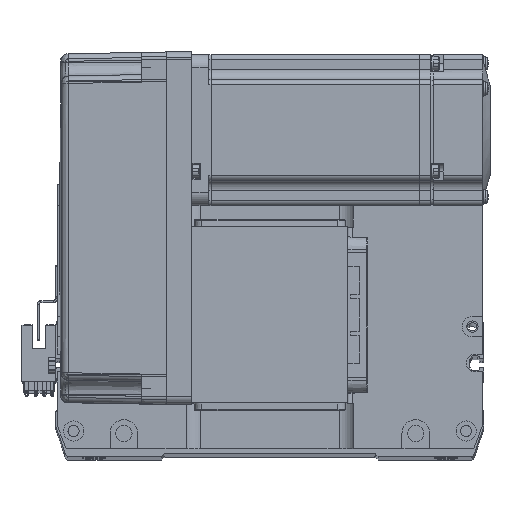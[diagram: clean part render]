
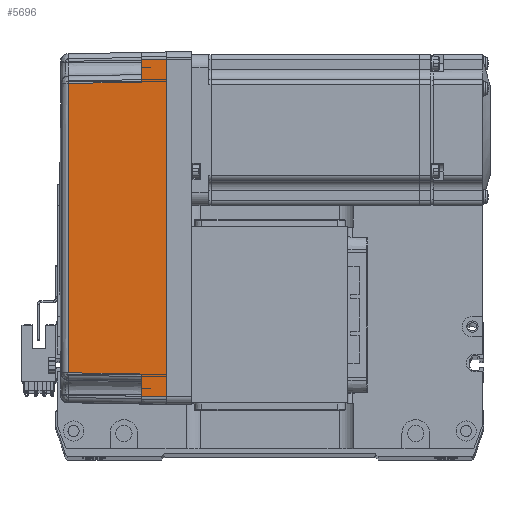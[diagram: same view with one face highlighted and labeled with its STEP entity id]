
A CAD part, top view. The second image highlights one B-rep face of the part: STEP entity #5696.
In plain terms, the highlighted planar face has unit normal (-0.018, 0, 1) as drawn and (0, 1, 0.017) by its records, which use the part's own axes.
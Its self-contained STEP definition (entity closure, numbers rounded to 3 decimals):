
#541 = CARTESIAN_POINT ( 'NONE',  ( 0., 36., 0. ) ) ;
#4303 = FACE_OUTER_BOUND ( 'NONE', #29528, .T. ) ;
#4507 = LINE ( 'NONE', #43528, #9754 ) ;
#4822 = ORIENTED_EDGE ( 'NONE', *, *, #26625, .T. ) ;
#5563 = DIRECTION ( 'NONE',  ( 1., 0., 0. ) ) ;
#5696 = ADVANCED_FACE ( 'NONE', ( #4303 ), #8889, .T. ) ;
#6375 = VERTEX_POINT ( 'NONE', #43643 ) ;
#8135 = ORIENTED_EDGE ( 'NONE', *, *, #50624, .T. ) ;
#8437 = ORIENTED_EDGE ( 'NONE', *, *, #33438, .T. ) ;
#8889 = PLANE ( 'NONE',  #20826 ) ;
#9283 = LINE ( 'NONE', #43284, #46164 ) ;
#9754 = VECTOR ( 'NONE', #12332, 1000. ) ;
#11929 = ORIENTED_EDGE ( 'NONE', *, *, #52547, .T. ) ;
#12332 = DIRECTION ( 'NONE',  ( 0.017, 0.017, -1. ) ) ;
#13146 = CARTESIAN_POINT ( 'NONE',  ( 70., 36., 0. ) ) ;
#13754 = VERTEX_POINT ( 'NONE', #28854 ) ;
#13771 = DIRECTION ( 'NONE',  ( 0., -0.017, 1. ) ) ;
#13995 = VECTOR ( 'NONE', #43821, 1000. ) ;
#14355 = ORIENTED_EDGE ( 'NONE', *, *, #46519, .F. ) ;
#15229 = VERTEX_POINT ( 'NONE', #35168 ) ;
#16623 = CARTESIAN_POINT ( 'NONE',  ( 70., 35.825, 10. ) ) ;
#17064 = DIRECTION ( 'NONE',  ( 1., 0., 0. ) ) ;
#18343 = ORIENTED_EDGE ( 'NONE', *, *, #31940, .F. ) ;
#18464 = VERTEX_POINT ( 'NONE', #35305 ) ;
#19471 = CARTESIAN_POINT ( 'NONE',  ( -67., 36., 0. ) ) ;
#20826 = AXIS2_PLACEMENT_3D ( 'NONE', #13146, #42579, #13771 ) ;
#21306 = VERTEX_POINT ( 'NONE', #56798 ) ;
#23693 = EDGE_CURVE ( 'NONE', #25841, #6375, #60445, .T. ) ;
#24441 = CARTESIAN_POINT ( 'NONE',  ( -57.495, 35.32, 38.985 ) ) ;
#25388 = VERTEX_POINT ( 'NONE', #44700 ) ;
#25841 = VERTEX_POINT ( 'NONE', #24441 ) ;
#26625 = EDGE_CURVE ( 'NONE', #21306, #13754, #61433, .T. ) ;
#27559 = EDGE_CURVE ( 'NONE', #15229, #25841, #9283, .T. ) ;
#28854 = CARTESIAN_POINT ( 'NONE',  ( 66.826, 35.825, 10. ) ) ;
#29008 = CARTESIAN_POINT ( 'NONE',  ( -57.495, 35.32, 38.985 ) ) ;
#29528 = EDGE_LOOP ( 'NONE', ( #11929, #8135, #33251, #45223, #8437, #4822, #18343, #14355 ) ) ;
#30160 = VERTEX_POINT ( 'NONE', #61326 ) ;
#31940 = EDGE_CURVE ( 'NONE', #25388, #13754, #36495, .T. ) ;
#33053 = CARTESIAN_POINT ( 'NONE',  ( 70., 35.825, 10. ) ) ;
#33145 = DIRECTION ( 'NONE',  ( 0.017, -0.017, 1. ) ) ;
#33251 = ORIENTED_EDGE ( 'NONE', *, *, #27559, .T. ) ;
#33438 = EDGE_CURVE ( 'NONE', #6375, #21306, #4507, .T. ) ;
#33501 = LINE ( 'NONE', #16623, #38823 ) ;
#35168 = CARTESIAN_POINT ( 'NONE',  ( -58., 35.825, 10. ) ) ;
#35305 = CARTESIAN_POINT ( 'NONE',  ( -67., 36., 0. ) ) ;
#36065 = LINE ( 'NONE', #541, #37597 ) ;
#36495 = LINE ( 'NONE', #53098, #13995 ) ;
#37597 = VECTOR ( 'NONE', #5563, 1000. ) ;
#38823 = VECTOR ( 'NONE', #17064, 1000. ) ;
#42538 = CARTESIAN_POINT ( 'NONE',  ( 57.495, 35.32, 38.985 ) ) ;
#42579 = DIRECTION ( 'NONE',  ( 0., 1., 0.017 ) ) ;
#42752 = CARTESIAN_POINT ( 'NONE',  ( 19.165, 35.316, 39.181 ) ) ;
#43284 = CARTESIAN_POINT ( 'NONE',  ( -58., 35.825, 10. ) ) ;
#43352 = CARTESIAN_POINT ( 'NONE',  ( -19.165, 35.316, 39.181 ) ) ;
#43528 = CARTESIAN_POINT ( 'NONE',  ( 57.495, 35.32, 38.985 ) ) ;
#43643 = CARTESIAN_POINT ( 'NONE',  ( 57.495, 35.32, 38.985 ) ) ;
#43821 = DIRECTION ( 'NONE',  ( -0.017, -0.017, 1. ) ) ;
#44700 = CARTESIAN_POINT ( 'NONE',  ( 67., 36., 0. ) ) ;
#45223 = ORIENTED_EDGE ( 'NONE', *, *, #23693, .T. ) ;
#46164 = VECTOR ( 'NONE', #33145, 1000. ) ;
#46519 = EDGE_CURVE ( 'NONE', #18464, #25388, #36065, .T. ) ;
#47678 = VECTOR ( 'NONE', #47888, 1000. ) ;
#47888 = DIRECTION ( 'NONE',  ( 0.017, -0.017, 1. ) ) ;
#49150 = LINE ( 'NONE', #19471, #47678 ) ;
#50624 = EDGE_CURVE ( 'NONE', #30160, #15229, #33501, .T. ) ;
#52499 = VECTOR ( 'NONE', #58269, 1000. ) ;
#52547 = EDGE_CURVE ( 'NONE', #18464, #30160, #49150, .T. ) ;
#53098 = CARTESIAN_POINT ( 'NONE',  ( 67.001, 36.001, -0.052 ) ) ;
#56798 = CARTESIAN_POINT ( 'NONE',  ( 58., 35.825, 10. ) ) ;
#58269 = DIRECTION ( 'NONE',  ( 1., 0., 0. ) ) ;
#60445 = B_SPLINE_CURVE_WITH_KNOTS ( 'NONE', 3,
 ( #29008, #43352, #42752, #42538 ),
 .UNSPECIFIED., .F., .F.,
 ( 4, 4 ),
 ( 0., 1. ),
 .UNSPECIFIED. ) ;
#61326 = CARTESIAN_POINT ( 'NONE',  ( -66.826, 35.825, 10. ) ) ;
#61433 = LINE ( 'NONE', #33053, #52499 ) ;
